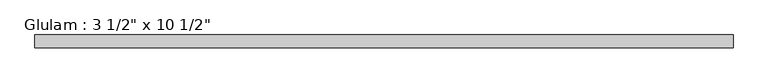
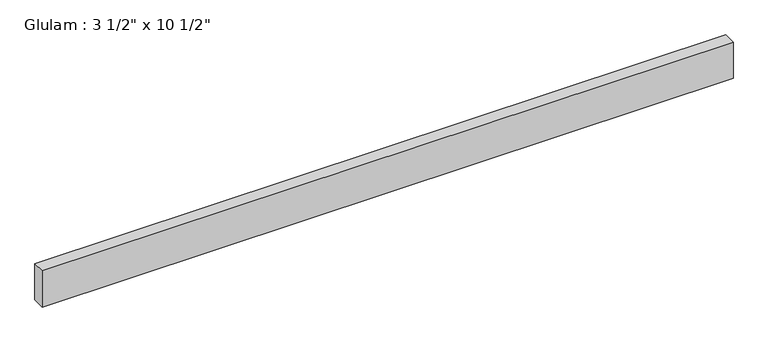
"""IFC4 building model written with IfcOpenShell, lengths in millimetres: beam geometry."""

from ifc_helpers import new_model, si_unit, frame, origin, place, context, project, spatial, polyline, outline, extrude, source, transform, mapped, element, save


def beam_e43a8435(model_context):
    return source(origin(), model_context, "Body", "SweptSolid", [
        extrude(outline(polyline([(2399.0593624, 44.45), (2399.0593624, -44.45), (-2432.3487949, -44.45), (-2432.3487949, 44.45), (2399.0593624, 44.45)])), frame((0.0, 0.0, -133.35), z_axis=(0.0, 0.0, 1.0), x_axis=(1.0, 0.0, 0.0)), (0.0, 0.0, 1.0), 266.7),
    ])


if __name__ == "__main__":
    model = new_model("IFC4")
    model_context = context("Model", 3, world=origin())
    ifc_project = project(units=[si_unit("LENGTHUNIT", "METRE", prefix="MILLI")], contexts=[model_context])
    site = spatial("IfcSite", under=ifc_project)
    building = spatial("IfcBuilding", under=site)
    placement = place(None, origin())
    beam_shape = beam_e43a8435(model_context)
    element("IfcBeam", 1, ObjectType="Glulam : 3 1/2\" x 10 1/2\"", at=placement, inside=building, context=model_context, shape_type="MappedRepresentation", body=[
        mapped(beam_shape, transform((0.0, 0.0, 0.0), x_axis=(1.0, 0.0, 0.0), y_axis=(0.0, 1.0, 0.0), z_axis=(0.0, 0.0, 1.0))),
    ])
    save(model, "model.ifc")
